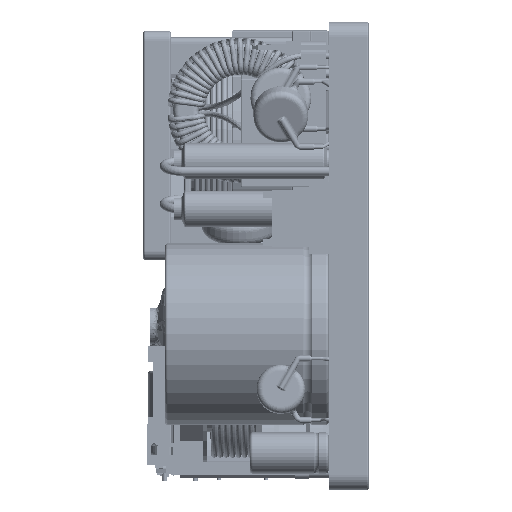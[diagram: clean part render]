
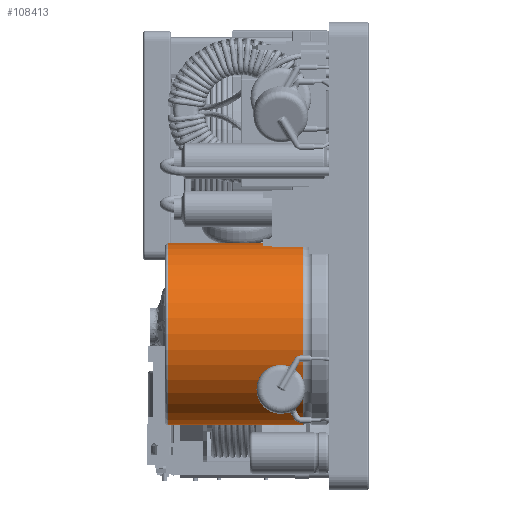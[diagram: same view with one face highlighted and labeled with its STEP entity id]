
A CAD part, left-side view. The second image highlights one B-rep face of the part: STEP entity #108413.
In plain terms, the highlighted cylindrical face has radius 15 mm (diameter 30 mm), a partial arc.
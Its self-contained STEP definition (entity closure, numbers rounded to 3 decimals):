
#8477 = EDGE_LOOP ( 'NONE', ( #236387, #212376, #94019, #180296 ) ) ;
#9657 = FACE_OUTER_BOUND ( 'NONE', #8477, .T. ) ;
#18043 = EDGE_CURVE ( 'NONE', #69790, #169438, #325102, .T. ) ;
#37012 = DIRECTION ( 'NONE',  ( 0., 1., 0. ) ) ;
#40001 = DIRECTION ( 'NONE',  ( 0., 1., 0. ) ) ;
#53710 = AXIS2_PLACEMENT_3D ( 'NONE', #267483, #37012, #148002 ) ;
#69790 = VERTEX_POINT ( 'NONE', #259756 ) ;
#72216 = CIRCLE ( 'NONE', #315596, 15. ) ;
#72815 = CYLINDRICAL_SURFACE ( 'NONE', #53710, 15. ) ;
#88368 = CARTESIAN_POINT ( 'NONE',  ( 0., 26.5, 0. ) ) ;
#94019 = ORIENTED_EDGE ( 'NONE', *, *, #18043, .T. ) ;
#105405 = CARTESIAN_POINT ( 'NONE',  ( 0., 42.557, -15. ) ) ;
#105935 = DIRECTION ( 'NONE',  ( 0., 1., 0. ) ) ;
#108413 = ADVANCED_FACE ( 'NONE', ( #9657 ), #72815, .T. ) ;
#121355 = VECTOR ( 'NONE', #40001, 1000. ) ;
#127342 = EDGE_CURVE ( 'NONE', #294685, #308632, #216432, .T. ) ;
#127358 = CIRCLE ( 'NONE', #330767, 15. ) ;
#148002 = DIRECTION ( 'NONE',  ( 0., 0., 1. ) ) ;
#169438 = VERTEX_POINT ( 'NONE', #295291 ) ;
#179991 = DIRECTION ( 'NONE',  ( 0., 1., 0. ) ) ;
#180296 = ORIENTED_EDGE ( 'NONE', *, *, #298339, .F. ) ;
#199388 = DIRECTION ( 'NONE',  ( 0., 0., 1. ) ) ;
#212376 = ORIENTED_EDGE ( 'NONE', *, *, #224529, .T. ) ;
#216432 = LINE ( 'NONE', #105405, #335275 ) ;
#224529 = EDGE_CURVE ( 'NONE', #294685, #69790, #127358, .T. ) ;
#231092 = CARTESIAN_POINT ( 'NONE',  ( 0., 42.557, 15. ) ) ;
#236387 = ORIENTED_EDGE ( 'NONE', *, *, #127342, .F. ) ;
#259756 = CARTESIAN_POINT ( 'NONE',  ( 0., 4.214, 15. ) ) ;
#267483 = CARTESIAN_POINT ( 'NONE',  ( 0., 42.557, 0. ) ) ;
#294685 = VERTEX_POINT ( 'NONE', #325561 ) ;
#295291 = CARTESIAN_POINT ( 'NONE',  ( 0., 26.5, 15. ) ) ;
#298339 = EDGE_CURVE ( 'NONE', #308632, #169438, #72216, .T. ) ;
#300635 = CARTESIAN_POINT ( 'NONE',  ( 0., 26.5, -15. ) ) ;
#308632 = VERTEX_POINT ( 'NONE', #300635 ) ;
#313940 = DIRECTION ( 'NONE',  ( 0., 1., 0. ) ) ;
#315596 = AXIS2_PLACEMENT_3D ( 'NONE', #88368, #313940, #199388 ) ;
#325102 = LINE ( 'NONE', #231092, #121355 ) ;
#325561 = CARTESIAN_POINT ( 'NONE',  ( 0., 4.214, -15. ) ) ;
#326133 = CARTESIAN_POINT ( 'NONE',  ( 0., 4.214, 0. ) ) ;
#330767 = AXIS2_PLACEMENT_3D ( 'NONE', #326133, #105935, #357081 ) ;
#335275 = VECTOR ( 'NONE', #179991, 1000. ) ;
#357081 = DIRECTION ( 'NONE',  ( 0., 0., 1. ) ) ;
